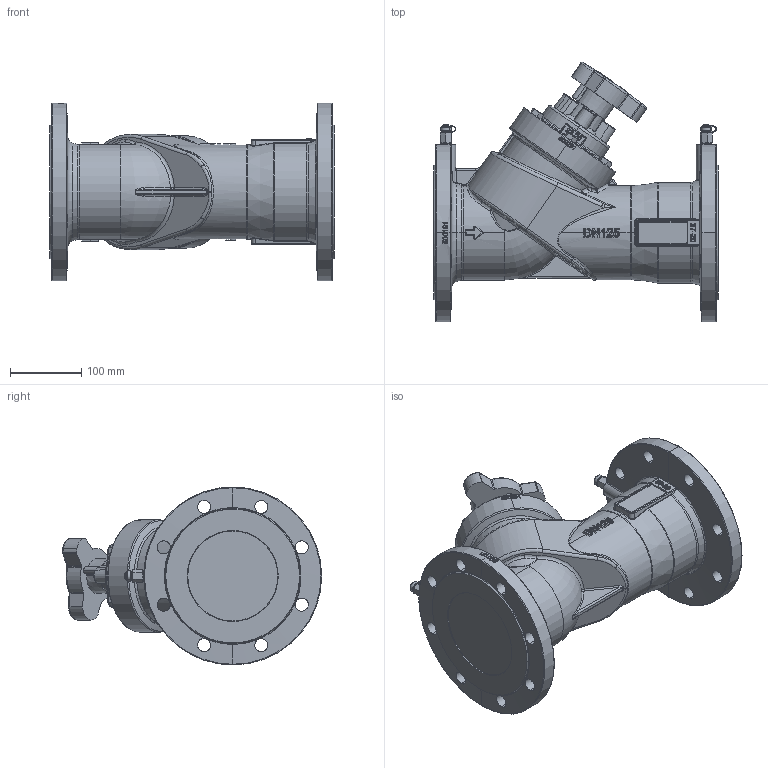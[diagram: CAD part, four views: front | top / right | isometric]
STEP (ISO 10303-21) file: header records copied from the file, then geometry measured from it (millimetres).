
FILE_DESCRIPTION (( 'STEP AP203' ), '1' );
FILE_NAME ('EKOFLUX.S012516P.STEP', '2021-09-14T07:00:14', ( '' ), ( '' ), 'SwSTEP 2.0', 'SolidWorks 2017', '' );
FILE_SCHEMA (( 'CONFIG_CONTROL_DESIGN' ));
Products named in the file (1): EKOFLUX.S012516P
Bounding box: 400 x 364.42 x 250 mm (x, y, z)
Volume: 9436640.3 mm3; surface area: 490504.7 mm2
Topology: 1 solids, 21 shells, 1751 faces, 4456 edges, 2773 vertices
Faces by surface type: bspline 570, plane 504, cylinder 355, cone 192, torus 118, sphere 12
Entity records: 82769 total; most frequent: CARTESIAN_POINT 45582, ORIENTED_EDGE 8822, DIRECTION 6078, EDGE_CURVE 4411, VERTEX_POINT 2772, AXIS2_PLACEMENT_3D 2293, EDGE_LOOP 1869, ADVANCED_FACE 1751
